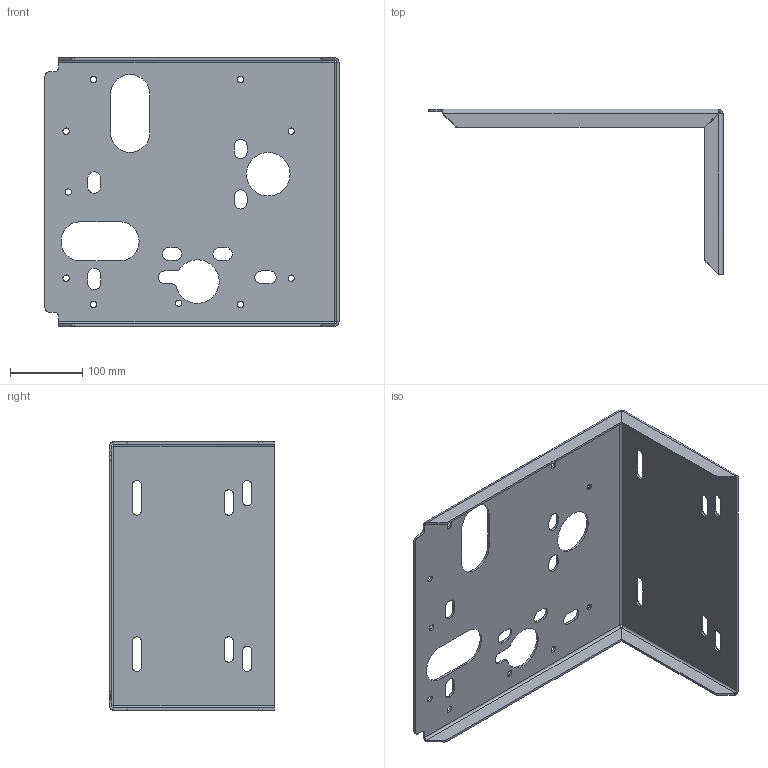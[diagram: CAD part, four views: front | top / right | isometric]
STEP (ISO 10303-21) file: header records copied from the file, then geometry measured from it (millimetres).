
FILE_DESCRIPTION(/* description */ ('BRACKET, DISP MTG, PAINT, MR 5-30-RD'),/* implementation_level */ '2;1');
FILE_NAME(/* name */ 'G:\PUBLIC\MKTG\Laura\WEBSITE PUMP MODEL STP\143065-01_MOUNTING_SHELF.stp',/* time_stamp */ '2017-07-11T11:13:40-05:00',/* author */ ('gdonbak'),/* organization */ (''),/* preprocessor_version */ 'ST-DEVELOPER v16.5',/* originating_system */ 'Autodesk Inventor 2017',/* authorisation */ '');
FILE_SCHEMA (('AUTOMOTIVE_DESIGN { 1 0 10303 214 3 1 1 }'));
Length unit declared in the file: inch
Products named in the file (1): 143065-01
Bounding box: 406.4 x 228.6 x 370.84 mm (x, y, z)
Volume: 710099.1 mm3; surface area: 479432.8 mm2
Topology: 1 solids, 1 shells, 135 faces, 361 edges, 228 vertices
Faces by surface type: plane 66, cylinder 63, bspline 6
Full cylindrical faces by diameter (mm): 8.738 x10, 60.325 x1
Entity records: 4590 total; most frequent: CARTESIAN_POINT 930, DIRECTION 716, ORIENTED_EDGE 700, EDGE_CURVE 350, AXIS2_PLACEMENT_3D 248, VERTEX_POINT 228, LINE 220, VECTOR 220
